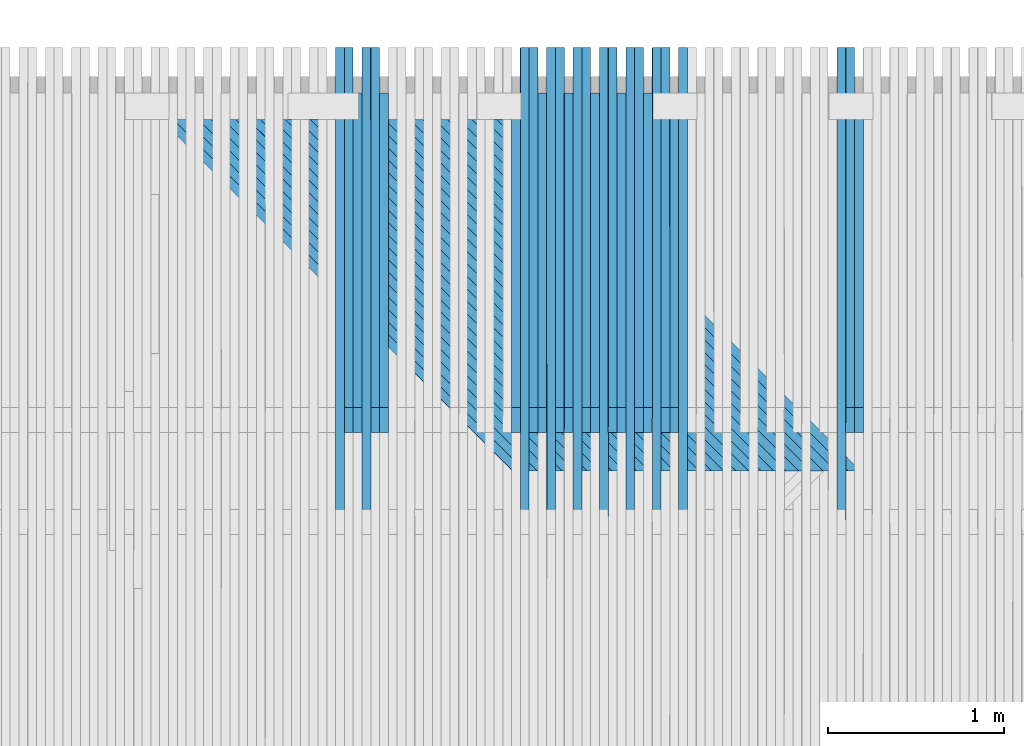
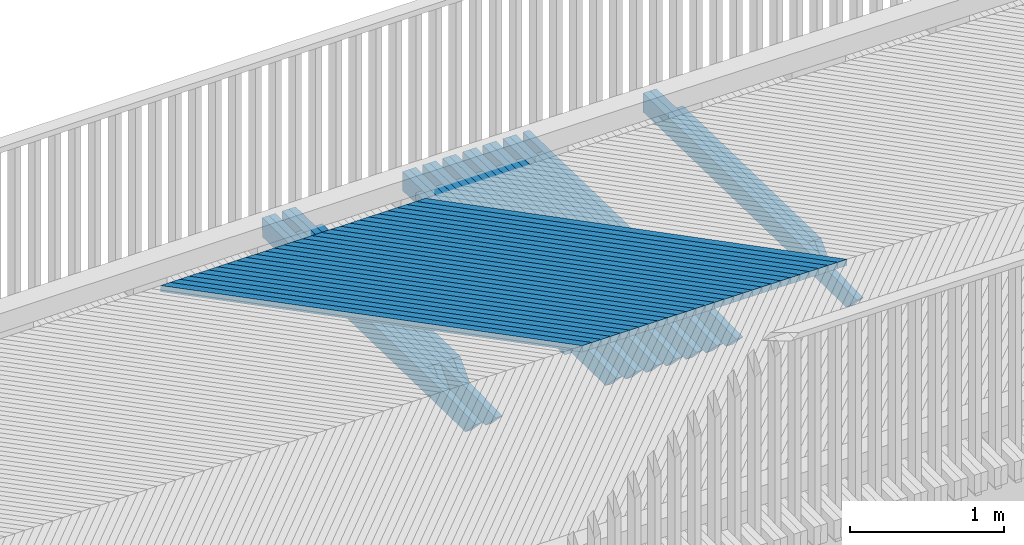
# One storey, part 33 of 47: 57 beams.
"""IFC2X3 building model written with IfcOpenShell, lengths in millimetres."""

from ifc_helpers import new_model, si_unit, frame, origin_with_axes, place, context, subcontext, project, spatial, faceted_brep, material, type_object, element, save


model = new_model("IFC2X3")

# Units and contexts
model_context = context("Model", 3, precision=1e-05, world=origin_with_axes())
body_context = subcontext(model_context, "Body", "Model", "MODEL_VIEW")
ifc_project = project(units=[si_unit("LENGTHUNIT", "METRE", prefix="MILLI"), si_unit("AREAUNIT", "SQUARE_METRE"), si_unit("VOLUMEUNIT", "CUBIC_METRE"), si_unit("MASSUNIT", "GRAM", prefix="KILO"), si_unit("TIMEUNIT", "SECOND"), si_unit("PLANEANGLEUNIT", "RADIAN"), si_unit("SOLIDANGLEUNIT", "STERADIAN"), si_unit("THERMODYNAMICTEMPERATUREUNIT", "DEGREE_CELSIUS"), si_unit("LUMINOUSINTENSITYUNIT", "LUMEN")], contexts=[model_context])

# Site, building, storey
site_placement = place(None, origin_with_axes())
site = spatial("IfcSite", under=ifc_project, at=site_placement, Name="Undefined", CompositionType="ELEMENT")
building_placement = place(site_placement, origin_with_axes())
building = spatial("IfcBuilding", under=site, at=building_placement, Name="Undefined", CompositionType="ELEMENT")
storey_placement = place(building_placement, origin_with_axes())
storey = spatial("IfcBuildingStorey", under=building, at=storey_placement, Name="Undefined", CompositionType="ELEMENT", Elevation=0.0)

# Beams
ifc_material = material(Name="TIMBER/Timber_Undefined")
beam_type_1 = type_object("IfcBeamType", Name="150*50", PredefinedType="NOTDEFINED")
beam_1_placement = place(storey_placement, frame((12050.5466206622, 64513.4953923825, 3079.51987287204), z_axis=(0.00672964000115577, 0.019996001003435, 0.99977741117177), x_axis=(0.000134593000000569, -0.999800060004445, 0.0199955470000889)))
element("IfcBeam", 1, at=beam_1_placement, inside=storey, type_object=beam_type_1, material=ifc_material, Name="BEAM", ObjectType="150*50", context=body_context, shape_type="Brep", body=[
    faceted_brep([(6.18456397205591e-09, -24.9999999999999, -75.0000000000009), (-6.1918399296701e-09, -24.9999999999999, 74.9999999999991), (-6.19911588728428e-09, 25.0, 75.0), (6.18456397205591e-09, 24.9999999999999, -75.0), (1789.96936586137, 25.0, 75.0000000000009), (1928.42646506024, 25.0, -75.0), (1928.4264649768, -24.9999999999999, -75.0), (1789.96936577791, -24.9999999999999, 75.0)], [[[0, 1, 2, 3]], [[3, 2, 4, 5]], [[0, 3, 5, 6]], [[1, 0, 6, 7]], [[2, 1, 7, 4]], [[7, 6, 5, 4]]]),
])
beam_2_placement = place(storey_placement, frame((12000.6084831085, 64771.4438078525, 3074.69475377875), z_axis=(0.00664728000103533, 0.0199960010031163, 0.999777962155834), x_axis=(0.000132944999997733, -0.999800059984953, 0.0199955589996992)))
element("IfcBeam", 2, at=beam_2_placement, inside=storey, type_object=beam_type_1, material=ifc_material, Name="BEAM", ObjectType="150*50", context=body_context, shape_type="Brep", body=[
    faceted_brep([(6.18456397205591e-09, -24.9999999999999, -75.0000000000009), (-6.1918399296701e-09, -24.9999999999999, 74.9999999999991), (-6.19911588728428e-09, 25.0, 75.0), (6.18456397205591e-09, 24.9999999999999, -75.0), (2047.96935975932, 25.0, 75.0), (2186.42645864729, 25.0, -75.0), (2186.42645915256, -25.0000000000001, -75.0), (2047.96936034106, -25.0000000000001, 75.0)], [[[0, 1, 2, 3]], [[3, 2, 4, 5]], [[0, 3, 5, 6]], [[1, 0, 6, 7]], [[2, 1, 7, 4]], [[7, 6, 5, 4]]]),
])
beam_3_placement = place(storey_placement, frame((11950.5701570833, 64771.443807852, 3075.0265631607), z_axis=(0.00648046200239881, 0.0199960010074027, 0.999779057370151), x_axis=(0.000129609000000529, -0.999800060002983, 0.0199955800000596)))
element("IfcBeam", 3, at=beam_3_placement, inside=storey, type_object=beam_type_1, material=ifc_material, Name="BEAM", ObjectType="150*50", context=body_context, shape_type="Brep", body=[
    faceted_brep([(6.18456397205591e-09, -24.9999999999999, -75.0000000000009), (6.18456397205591e-09, 24.9999999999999, -75.0), (2633.00494983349, 25.0000000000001, -75.0000000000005), (2633.00495050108, -24.9999999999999, -75.0000000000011), (-6.1918399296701e-09, -24.9999999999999, 74.9999999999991), (-6.19911588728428e-09, 25.0, 75.0), (2408.42501428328, 25.0000000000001, 74.9999999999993), (2768.5924870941, 25.0, 60.5875375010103), (2768.59248707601, -25.0, 60.5875366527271), (2408.4250638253, -25.0, 74.9999999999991)], [[[0, 1, 2, 3]], [[0, 4, 5, 1]], [[2, 1, 5, 6, 7]], [[3, 2, 7, 8]], [[4, 0, 3, 8, 9]], [[5, 4, 9, 6]], [[8, 7, 6, 9]]]),
])
beam_4_placement = place(storey_placement, frame((11050.4128725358, 64771.443807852, 3080.26119250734), z_axis=(0.00498538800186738, 0.0199960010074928, 0.999787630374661), x_axis=(9.97080000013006e-05, -0.999800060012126, 0.0199957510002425)))
element("IfcBeam", 4, at=beam_4_placement, inside=storey, type_object=beam_type_1, material=ifc_material, Name="BEAM", ObjectType="150*50", context=body_context, shape_type="Brep", body=[
    faceted_brep([(6.18456397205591e-09, -24.9999999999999, -75.0000000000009), (6.18456397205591e-09, 24.9999999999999, -75.0), (2633.00494983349, 25.0000000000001, -75.0000000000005), (2633.00495050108, -24.9999999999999, -75.0000000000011), (-6.1918399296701e-09, -24.9999999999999, 74.9999999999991), (-6.19911588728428e-09, 25.0, 75.0), (2408.42506497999, 24.9999999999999, 75.0), (2768.5924870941, 25.0, 60.5875375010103), (2768.59248707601, -25.0, 60.5875366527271), (2408.4250638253, -25.0, 74.9999999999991)], [[[0, 1, 2, 3]], [[0, 4, 5, 1]], [[2, 1, 5, 6, 7]], [[3, 2, 7, 8]], [[4, 0, 3, 8, 9]], [[5, 4, 9, 6]], [[8, 7, 6, 9]]]),
])
beam_5_placement = place(storey_placement, frame((11000.3544131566, 64513.4953923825, 3085.67048511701), z_axis=(0.00498538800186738, 0.0199960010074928, 0.999787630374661), x_axis=(9.97080000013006e-05, -0.999800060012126, 0.0199957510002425)))
element("IfcBeam", 5, at=beam_5_placement, inside=storey, type_object=beam_type_1, material=ifc_material, Name="BEAM", ObjectType="150*50", context=body_context, shape_type="Brep", body=[
    faceted_brep([(6.18456397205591e-09, -24.9999999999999, -75.0000000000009), (-6.1918399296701e-09, -24.9999999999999, 74.9999999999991), (-6.19911588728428e-09, 25.0, 75.0), (6.18456397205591e-09, 24.9999999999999, -75.0), (1789.96936586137, 25.0, 75.0000000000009), (1928.42646506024, 25.0, -75.0), (1928.4264649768, -24.9999999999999, -75.0), (1789.96936577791, -24.9999999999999, 75.0)], [[[0, 1, 2, 3]], [[3, 2, 4, 5]], [[0, 3, 5, 6]], [[1, 0, 6, 7]], [[2, 1, 7, 4]], [[7, 6, 5, 4]]]),
])
beam_6_placement = place(storey_placement, frame((10950.4247696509, 64771.4438078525, 3080.75824978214), z_axis=(0.00490302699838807, 0.0199960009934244, 0.999788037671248), x_axis=(9.80599999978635e-05, -0.999800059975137, 0.0199957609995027)))
element("IfcBeam", 6, at=beam_6_placement, inside=storey, type_object=beam_type_1, material=ifc_material, Name="BEAM", ObjectType="150*50", context=body_context, shape_type="Brep", body=[
    faceted_brep([(6.18456397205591e-09, -24.9999999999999, -75.0000000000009), (-6.1918399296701e-09, -24.9999999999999, 74.9999999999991), (-6.19911588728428e-09, 25.0, 75.0), (6.18456397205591e-09, 24.9999999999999, -75.0), (2047.96935975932, 25.0, 75.0), (2186.42645864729, 25.0, -75.0), (2186.42645915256, -25.0000000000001, -75.0), (2047.96936034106, -25.0000000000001, 75.0)], [[[0, 1, 2, 3]], [[3, 2, 4, 5]], [[0, 3, 5, 6]], [[1, 0, 6, 7]], [[2, 1, 7, 4]], [[7, 6, 5, 4]]]),
])
beam_7_placement = place(storey_placement, frame((10900.3859408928, 64771.443807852, 3081.00276028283), z_axis=(0.00473620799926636, 0.019996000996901, 0.999788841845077), x_axis=(9.47239999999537e-05, -0.99980005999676, 0.0199957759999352)))
element("IfcBeam", 7, at=beam_7_placement, inside=storey, type_object=beam_type_1, material=ifc_material, Name="BEAM", ObjectType="150*50", context=body_context, shape_type="Brep", body=[
    faceted_brep([(6.18456397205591e-09, -24.9999999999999, -75.0000000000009), (6.18456397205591e-09, 24.9999999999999, -75.0), (2633.00494983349, 25.0000000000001, -75.0000000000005), (2633.00495050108, -24.9999999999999, -75.0000000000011), (-6.1918399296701e-09, -24.9999999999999, 74.9999999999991), (-6.19911588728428e-09, 25.0, 75.0), (2408.42501428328, 25.0000000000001, 74.9999999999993), (2768.5924870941, 25.0, 60.5875375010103), (2768.59248707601, -25.0, 60.5875366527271), (2408.42499905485, -25.0, 74.9999999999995)], [[[0, 1, 2, 3]], [[0, 4, 5, 1]], [[2, 1, 5, 6, 7]], [[3, 2, 7, 8]], [[4, 0, 3, 8, 9]], [[5, 4, 9, 6]], [[6, 9, 8, 7]]]),
])
beam_8_placement = place(storey_placement, frame((10850.326134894, 64513.4953923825, 3086.39957650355), z_axis=(0.00473620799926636, 0.019996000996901, 0.999788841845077), x_axis=(9.47239999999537e-05, -0.99980005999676, 0.0199957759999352)))
element("IfcBeam", 8, at=beam_8_placement, inside=storey, type_object=beam_type_1, material=ifc_material, Name="BEAM", ObjectType="150*50", context=body_context, shape_type="Brep", body=[
    faceted_brep([(6.18456397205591e-09, -24.9999999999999, -75.0000000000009), (-6.1918399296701e-09, -24.9999999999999, 74.9999999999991), (-6.19911588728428e-09, 25.0, 75.0), (6.18456397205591e-09, 24.9999999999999, -75.0), (1789.96936586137, 25.0, 75.0000000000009), (1928.42646506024, 25.0, -75.0), (1928.4264649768, -24.9999999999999, -75.0), (1789.96936577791, -24.9999999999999, 75.0)], [[[0, 1, 2, 3]], [[3, 2, 4, 5]], [[0, 3, 5, 6]], [[1, 0, 6, 7]], [[2, 1, 7, 4]], [[7, 6, 5, 4]]]),
])
beam_9_placement = place(storey_placement, frame((10800.3977172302, 64771.4438078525, 3081.47489720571), z_axis=(0.00465384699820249, 0.019996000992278, 0.999789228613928), x_axis=(9.30769999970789e-05, -0.999800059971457, 0.0199957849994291)))
element("IfcBeam", 9, at=beam_9_placement, inside=storey, type_object=beam_type_1, material=ifc_material, Name="BEAM", ObjectType="150*50", context=body_context, shape_type="Brep", body=[
    faceted_brep([(6.18456397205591e-09, -24.9999999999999, -75.0000000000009), (-6.1918399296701e-09, -24.9999999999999, 74.9999999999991), (-6.19911588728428e-09, 25.0, 75.0), (6.18456397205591e-09, 24.9999999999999, -75.0), (2047.96935975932, 25.0, 75.0), (2186.42645864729, 25.0, -75.0), (2186.42645915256, -25.0000000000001, -75.0), (2047.96936034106, -25.0000000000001, 75.0)], [[[0, 1, 2, 3]], [[3, 2, 4, 5]], [[0, 3, 5, 6]], [[1, 0, 6, 7]], [[2, 1, 7, 4]], [[7, 6, 5, 4]]]),
])
beam_10_placement = place(storey_placement, frame((10750.3588290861, 64771.443807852, 3081.7069363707), z_axis=(0.00448702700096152, 0.019996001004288, 0.99978999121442), x_axis=(8.97409999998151e-05, -0.999800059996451, 0.019995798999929)))
element("IfcBeam", 10, at=beam_10_placement, inside=storey, type_object=beam_type_1, material=ifc_material, Name="BEAM", ObjectType="150*50", context=body_context, shape_type="Brep", body=[
    faceted_brep([(6.18456397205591e-09, -24.9999999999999, -75.0000000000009), (6.18456397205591e-09, 24.9999999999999, -75.0), (2633.00494983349, 25.0000000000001, -75.0000000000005), (2633.00495050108, -24.9999999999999, -75.0000000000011), (-6.1918399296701e-09, -24.9999999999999, 74.9999999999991), (-6.19911588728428e-09, 25.0, 75.0), (2408.42501428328, 25.0000000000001, 74.9999999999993), (2768.5924870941, 25.0, 60.5875375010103), (2768.59248707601, -25.0, 60.5875366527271), (2408.42499905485, -25.0, 74.9999999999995)], [[[0, 1, 2, 3]], [[0, 4, 5, 1]], [[2, 1, 5, 6, 7]], [[3, 2, 7, 8]], [[4, 0, 3, 8, 9]], [[5, 4, 9, 6]], [[6, 9, 8, 7]]]),
])
beam_11_placement = place(storey_placement, frame((10700.2976795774, 64513.4953923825, 3087.09127586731), z_axis=(0.00448702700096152, 0.019996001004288, 0.99978999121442), x_axis=(8.97409999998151e-05, -0.999800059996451, 0.019995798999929)))
element("IfcBeam", 11, at=beam_11_placement, inside=storey, type_object=beam_type_1, material=ifc_material, Name="BEAM", ObjectType="150*50", context=body_context, shape_type="Brep", body=[
    faceted_brep([(6.18456397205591e-09, -24.9999999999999, -75.0000000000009), (-6.1918399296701e-09, -24.9999999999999, 74.9999999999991), (-6.19911588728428e-09, 25.0, 75.0), (6.18456397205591e-09, 24.9999999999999, -75.0), (1789.96936586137, 25.0, 75.0000000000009), (1928.42646506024, 25.0, -75.0), (1928.4264649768, -24.9999999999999, -75.0), (1789.96936577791, -24.9999999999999, 75.0)], [[[0, 1, 2, 3]], [[3, 2, 4, 5]], [[0, 3, 5, 6]], [[1, 0, 6, 7]], [[2, 1, 7, 4]], [[7, 6, 5, 4]]]),
])
beam_12_placement = place(storey_placement, frame((10650.3704908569, 64771.4438078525, 3082.15415291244), z_axis=(0.00440466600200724, 0.0199960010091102, 0.999790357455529), x_axis=(8.80929999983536e-05, -0.999800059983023, 0.0199958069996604)))
element("IfcBeam", 12, at=beam_12_placement, inside=storey, type_object=beam_type_1, material=ifc_material, Name="BEAM", ObjectType="150*50", context=body_context, shape_type="Brep", body=[
    faceted_brep([(6.18456397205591e-09, -24.9999999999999, -75.0000000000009), (-6.1918399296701e-09, -24.9999999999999, 74.9999999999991), (-6.19911588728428e-09, 25.0, 75.0), (6.18456397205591e-09, 24.9999999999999, -75.0), (2047.96935975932, 25.0, 75.0), (2186.42645864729, 25.0, -75.0), (2186.42645915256, -25.0000000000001, -75.0), (2047.96936034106, -25.0000000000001, 75.0)], [[[0, 1, 2, 3]], [[3, 2, 4, 5]], [[0, 3, 5, 6]], [[1, 0, 6, 7]], [[2, 1, 7, 4]], [[7, 6, 5, 4]]]),
])
beam_13_placement = place(storey_placement, frame((10600.3315464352, 64771.443807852, 3082.37372072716), z_axis=(0.00423784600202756, 0.0199960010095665, 0.999791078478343), x_axis=(8.47570000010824e-05, -0.999800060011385, 0.0199958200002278)))
element("IfcBeam", 13, at=beam_13_placement, inside=storey, type_object=beam_type_1, material=ifc_material, Name="BEAM", ObjectType="150*50", context=body_context, shape_type="Brep", body=[
    faceted_brep([(6.18456397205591e-09, -24.9999999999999, -75.0000000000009), (6.18456397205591e-09, 24.9999999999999, -75.0), (2633.00494983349, 25.0000000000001, -75.0000000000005), (2633.00495050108, -24.9999999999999, -75.0000000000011), (-6.1918399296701e-09, -24.9999999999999, 74.9999999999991), (-6.19911588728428e-09, 25.0, 75.0), (2408.42506497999, 24.9999999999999, 75.0), (2768.5924870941, 25.0, 60.5875375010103), (2768.59248707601, -25.0, 60.5875366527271), (2408.4250638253, -25.0, 74.9999999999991)], [[[0, 1, 2, 3]], [[0, 4, 5, 1]], [[2, 1, 5, 6, 7]], [[3, 2, 7, 8]], [[4, 0, 3, 8, 9]], [[5, 4, 9, 6]], [[8, 7, 6, 9]]]),
])
beam_14_placement = place(storey_placement, frame((10550.2690565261, 64513.4953923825, 3087.74558316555), z_axis=(0.00423784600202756, 0.0199960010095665, 0.999791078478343), x_axis=(8.47570000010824e-05, -0.999800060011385, 0.0199958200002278)))
element("IfcBeam", 14, at=beam_14_placement, inside=storey, type_object=beam_type_1, material=ifc_material, Name="BEAM", ObjectType="150*50", context=body_context, shape_type="Brep", body=[
    faceted_brep([(6.18456397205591e-09, -24.9999999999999, -75.0000000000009), (-6.1918399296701e-09, -24.9999999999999, 74.9999999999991), (-6.19911588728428e-09, 25.0, 75.0), (6.18456397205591e-09, 24.9999999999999, -75.0), (1789.96936586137, 25.0, 75.0000000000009), (1928.42646506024, 25.0, -75.0), (1928.4264649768, -24.9999999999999, -75.0), (1789.96936577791, -24.9999999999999, 75.0)], [[[0, 1, 2, 3]], [[3, 2, 4, 5]], [[0, 3, 5, 6]], [[1, 0, 6, 7]], [[2, 1, 7, 4]], [[7, 6, 5, 4]]]),
])
beam_15_placement = place(storey_placement, frame((10500.3430998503, 64771.4438078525, 3082.79601686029), z_axis=(0.00415548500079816, 0.0199960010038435, 0.999791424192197), x_axis=(8.31089999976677e-05, -0.999800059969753, 0.019995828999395)))
element("IfcBeam", 15, at=beam_15_placement, inside=storey, type_object=beam_type_1, material=ifc_material, Name="BEAM", ObjectType="150*50", context=body_context, shape_type="Brep", body=[
    faceted_brep([(6.18456397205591e-09, -24.9999999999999, -75.0000000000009), (-6.1918399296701e-09, -24.9999999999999, 74.9999999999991), (-6.19911588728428e-09, 25.0, 75.0), (6.18456397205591e-09, 24.9999999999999, -75.0), (2047.96935975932, 25.0, 75.0), (2186.42645864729, 25.0, -75.0), (2186.42645915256, -25.0000000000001, -75.0), (2047.96936034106, -25.0000000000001, 75.0)], [[[0, 1, 2, 3]], [[3, 2, 4, 5]], [[0, 3, 5, 6]], [[1, 0, 6, 7]], [[2, 1, 7, 4]], [[7, 6, 5, 4]]]),
])
beam_16_placement = place(storey_placement, frame((10450.3041022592, 64771.443807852, 3083.00311331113), z_axis=(0.00398866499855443, 0.0199960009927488, 0.999792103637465), x_axis=(7.97730000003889e-05, -0.999800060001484, 0.0199958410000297)))
element("IfcBeam", 16, at=beam_16_placement, inside=storey, type_object=beam_type_1, material=ifc_material, Name="BEAM", ObjectType="150*50", context=body_context, shape_type="Brep", body=[
    faceted_brep([(6.18456397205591e-09, -24.9999999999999, -75.0000000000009), (6.18456397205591e-09, 24.9999999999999, -75.0), (2633.00494983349, 25.0000000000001, -75.0000000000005), (2633.00495050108, -24.9999999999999, -75.0000000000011), (-6.1918399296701e-09, -24.9999999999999, 74.9999999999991), (-6.19911588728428e-09, 25.0, 75.0), (2408.42501428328, 25.0000000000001, 74.9999999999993), (2768.5924870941, 25.0, 60.5875375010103), (2768.59248707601, -25.0, 60.5875366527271), (2408.4250638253, -25.0, 74.9999999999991)], [[[0, 1, 2, 3]], [[0, 4, 5, 1]], [[2, 1, 5, 6, 7]], [[3, 2, 7, 8]], [[4, 0, 3, 8, 9]], [[5, 4, 9, 6]], [[8, 7, 6, 9]]]),
])
beam_17_placement = place(storey_placement, frame((10400.2402750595, 64513.4953923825, 3088.36249835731), z_axis=(0.00398866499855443, 0.0199960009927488, 0.999792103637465), x_axis=(7.97730000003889e-05, -0.999800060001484, 0.0199958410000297)))
element("IfcBeam", 17, at=beam_17_placement, inside=storey, type_object=beam_type_1, material=ifc_material, Name="BEAM", ObjectType="150*50", context=body_context, shape_type="Brep", body=[
    faceted_brep([(6.18456397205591e-09, -24.9999999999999, -75.0000000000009), (-6.1918399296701e-09, -24.9999999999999, 74.9999999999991), (-6.19911588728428e-09, 25.0, 75.0), (6.18456397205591e-09, 24.9999999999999, -75.0), (1789.96936586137, 25.0, 75.0000000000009), (1928.42646506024, 25.0, -75.0), (1928.4264649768, -24.9999999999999, -75.0), (1789.96936577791, -24.9999999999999, 75.0)], [[[0, 1, 2, 3]], [[3, 2, 4, 5]], [[0, 3, 5, 6]], [[1, 0, 6, 7]], [[2, 1, 7, 4]], [[7, 6, 5, 4]]]),
])
beam_18_placement = place(storey_placement, frame((10350.3155535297, 64771.4438078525, 3083.4004890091), z_axis=(0.00390630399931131, 0.0199960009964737, 0.99979242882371), x_axis=(7.81259999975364e-05, -0.999800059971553, 0.0199958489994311)))
element("IfcBeam", 18, at=beam_18_placement, inside=storey, type_object=beam_type_1, material=ifc_material, Name="BEAM", ObjectType="150*50", context=body_context, shape_type="Brep", body=[
    faceted_brep([(6.18456397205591e-09, -24.9999999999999, -75.0000000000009), (-6.1918399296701e-09, -24.9999999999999, 74.9999999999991), (-6.19911588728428e-09, 25.0, 75.0), (6.18456397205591e-09, 24.9999999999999, -75.0), (2047.96935975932, 25.0, 75.0), (2186.42645864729, 25.0, -75.0), (2186.42645915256, -25.0000000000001, -75.0), (2047.96936034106, -25.0000000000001, 75.0)], [[[0, 1, 2, 3]], [[3, 2, 4, 5]], [[0, 3, 5, 6]], [[1, 0, 6, 7]], [[2, 1, 7, 4]], [[7, 6, 5, 4]]]),
])
beam_19_placement = place(storey_placement, frame((10300.2765058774, 64771.443807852, 3083.59511408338), z_axis=(0.00373948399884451, 0.0199960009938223, 0.999793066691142), x_axis=(7.47900000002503e-05, -0.999800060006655, 0.0199958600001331)))
element("IfcBeam", 19, at=beam_19_placement, inside=storey, type_object=beam_type_1, material=ifc_material, Name="BEAM", ObjectType="150*50", context=body_context, shape_type="Brep", body=[
    faceted_brep([(6.18456397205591e-09, -24.9999999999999, -75.0000000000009), (6.18456397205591e-09, 24.9999999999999, -75.0), (2633.00494983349, 25.0000000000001, -75.0000000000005), (2633.00495050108, -24.9999999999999, -75.0000000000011), (-6.1918399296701e-09, -24.9999999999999, 74.9999999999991), (-6.19911588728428e-09, 25.0, 75.0), (2408.42506497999, 24.9999999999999, 75.0), (2768.5924870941, 25.0, 60.5875375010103), (2768.59248707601, -25.0, 60.5875366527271), (2408.4250638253, -25.0, 74.9999999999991)], [[[0, 1, 2, 3]], [[0, 4, 5, 1]], [[2, 1, 5, 6, 7]], [[3, 2, 7, 8]], [[4, 0, 3, 8, 9]], [[5, 4, 9, 6]], [[8, 7, 6, 9]]]),
])
beam_20_placement = place(storey_placement, frame((10250.2113444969, 64513.4953923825, 3088.94202140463), z_axis=(0.00373948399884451, 0.0199960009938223, 0.999793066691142), x_axis=(7.47900000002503e-05, -0.999800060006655, 0.0199958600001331)))
element("IfcBeam", 20, at=beam_20_placement, inside=storey, type_object=beam_type_1, material=ifc_material, Name="BEAM", ObjectType="150*50", context=body_context, shape_type="Brep", body=[
    faceted_brep([(6.18456397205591e-09, -24.9999999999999, -75.0000000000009), (-6.1918399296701e-09, -24.9999999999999, 74.9999999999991), (-6.19911588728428e-09, 25.0, 75.0), (6.18456397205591e-09, 24.9999999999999, -75.0), (1789.96936586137, 25.0, 75.0000000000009), (1928.42646506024, 25.0, -75.0), (1928.4264649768, -24.9999999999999, -75.0), (1789.96936577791, -24.9999999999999, 75.0)], [[[0, 1, 2, 3]], [[3, 2, 4, 5]], [[0, 3, 5, 6]], [[1, 0, 6, 7]], [[2, 1, 7, 4]], [[7, 6, 5, 4]]]),
])
beam_21_placement = place(storey_placement, frame((10200.2878612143, 64771.4438078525, 3083.96756932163), z_axis=(0.00365712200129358, 0.0199960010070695, 0.999793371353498), x_axis=(7.3141999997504e-05, -0.999800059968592, 0.0199958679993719)))
element("IfcBeam", 21, at=beam_21_placement, inside=storey, type_object=beam_type_1, material=ifc_material, Name="BEAM", ObjectType="150*50", context=body_context, shape_type="Brep", body=[
    faceted_brep([(6.18456397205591e-09, -24.9999999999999, -75.0000000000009), (-6.1918399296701e-09, -24.9999999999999, 74.9999999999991), (-6.19911588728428e-09, 25.0, 75.0), (6.18456397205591e-09, 24.9999999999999, -75.0), (2047.96935975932, 25.0, 75.0), (2186.42645864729, 25.0, -75.0), (2186.42645915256, -25.0000000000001, -75.0), (2047.96936034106, -25.0000000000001, 75.0)], [[[0, 1, 2, 3]], [[3, 2, 4, 5]], [[0, 3, 5, 6]], [[1, 0, 6, 7]], [[2, 1, 7, 4]], [[7, 6, 5, 4]]]),
])
beam_22_placement = place(storey_placement, frame((10150.2487666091, 64771.443807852, 3084.14972300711), z_axis=(0.00349030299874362, 0.0199960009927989, 0.99979396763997), x_axis=(6.98060000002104e-05, -0.999800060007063, 0.0199958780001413)))
element("IfcBeam", 22, at=beam_22_placement, inside=storey, type_object=beam_type_1, material=ifc_material, Name="BEAM", ObjectType="150*50", context=body_context, shape_type="Brep", body=[
    faceted_brep([(6.18456397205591e-09, -24.9999999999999, -75.0000000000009), (6.18456397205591e-09, 24.9999999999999, -75.0), (2633.00494983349, 25.0000000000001, -75.0000000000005), (2633.00495050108, -24.9999999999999, -75.0000000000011), (-6.1918399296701e-09, -24.9999999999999, 74.9999999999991), (-6.19911588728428e-09, 25.0, 75.0), (2408.42506497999, 24.9999999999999, 75.0), (2768.5924870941, 25.0, 60.5875375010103), (2768.59248707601, -25.0, 60.5875366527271), (2408.4250638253, -25.0, 74.9999999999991)], [[[0, 1, 2, 3]], [[0, 4, 5, 1]], [[2, 1, 5, 6, 7]], [[3, 2, 7, 8]], [[4, 0, 3, 8, 9]], [[5, 4, 9, 6]], [[8, 7, 6, 9]]]),
])
for number, where, z_axis, x_axis, name in (
    (23, (10100.1822741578, 64513.4953923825, 3089.48415227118), (0.00349030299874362, 0.0199960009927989, 0.99979396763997), (6.98060000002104e-05, -0.999800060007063, 0.0199958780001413), "BEAM"),
    (24, (9350.03515199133, 64513.4953923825, 3091.63392279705), (0.00224439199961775, 0.0199960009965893, 0.99979754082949), (4.48879999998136e-05, -0.999800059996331, 0.0199959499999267), "BEAM"),
):
    element("IfcBeam", number, at=place(storey_placement, frame(where, z_axis=z_axis, x_axis=x_axis)), inside=storey, type_object=beam_type_1, material=ifc_material, Name=name, ObjectType="150*50", context=body_context, shape_type="Brep", body=[
        faceted_brep([(6.18456397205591e-09, -24.9999999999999, -75.0000000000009), (-6.1918399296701e-09, -24.9999999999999, 74.9999999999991), (-6.19911588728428e-09, 25.0, 75.0), (6.18456397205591e-09, 24.9999999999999, -75.0), (1789.96936586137, 25.0, 75.0000000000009), (1928.42646506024, 25.0, -75.0), (1928.4264649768, -24.9999999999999, -75.0), (1789.96936577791, -24.9999999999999, 75.0)], [[[0, 1, 2, 3]], [[3, 2, 4, 5]], [[0, 3, 5, 6]], [[1, 0, 6, 7]], [[2, 1, 7, 4]], [[7, 6, 5, 4]]]),
    ])
beam_23_placement = place(storey_placement, frame((9300.11916331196, 64771.4438078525, 3086.58482082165), z_axis=(0.00216203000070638, 0.0199960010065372, 0.999797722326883), x_axis=(4.32399999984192e-05, -0.999800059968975, 0.0199959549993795)))
element("IfcBeam", 25, at=beam_23_placement, inside=storey, type_object=beam_type_1, material=ifc_material, Name="BEAM", ObjectType="150*50", context=body_context, shape_type="Brep", body=[
    faceted_brep([(6.18456397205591e-09, -24.9999999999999, -75.0000000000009), (-6.1918399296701e-09, -24.9999999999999, 74.9999999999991), (-6.19911588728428e-09, 25.0, 75.0), (6.18456397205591e-09, 24.9999999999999, -75.0), (2047.96935975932, 25.0, 75.0), (2186.42645864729, 25.0, -75.0), (2186.42645915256, -25.0000000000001, -75.0), (2047.96936034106, -25.0000000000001, 75.0)], [[[0, 1, 2, 3]], [[3, 2, 4, 5]], [[0, 3, 5, 6]], [[1, 0, 6, 7]], [[2, 1, 7, 4]], [[7, 6, 5, 4]]]),
])
beam_24_placement = place(storey_placement, frame((9250.07985226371, 64771.443807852, 3086.69214596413), z_axis=(0.0019952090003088, 0.0199960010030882, 0.999798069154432), x_axis=(3.99040000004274e-05, -0.999800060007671, 0.0199959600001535)))
element("IfcBeam", 26, at=beam_24_placement, inside=storey, type_object=beam_type_1, material=ifc_material, Name="BEAM", ObjectType="150*50", context=body_context, shape_type="Brep", body=[
    faceted_brep([(6.18456397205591e-09, -24.9999999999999, -75.0000000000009), (6.18456397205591e-09, 24.9999999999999, -75.0), (2633.00494983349, 25.0000000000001, -75.0000000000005), (2633.00495050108, -24.9999999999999, -75.0000000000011), (-6.1918399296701e-09, -24.9999999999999, 74.9999999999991), (-6.19911588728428e-09, 25.0, 75.0), (2408.42506497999, 24.9999999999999, 75.0), (2768.5924870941, 25.0, 60.5875375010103), (2768.59248707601, -25.0, 60.5875366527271), (2408.4250638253, -25.0, 74.9999999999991)], [[[0, 1, 2, 3]], [[0, 4, 5, 1]], [[2, 1, 5, 6, 7]], [[3, 2, 7, 8]], [[4, 0, 3, 8, 9]], [[5, 4, 9, 6]], [[8, 7, 6, 9]]]),
])
beam_25_placement = place(storey_placement, frame((9200.00543869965, 64513.4953923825, 3091.95169995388), z_axis=(0.0019952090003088, 0.0199960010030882, 0.999798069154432), x_axis=(3.99040000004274e-05, -0.999800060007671, 0.0199959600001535)))
element("IfcBeam", 27, at=beam_25_placement, inside=storey, type_object=beam_type_1, material=ifc_material, Name="BEAM", ObjectType="150*50", context=body_context, shape_type="Brep", body=[
    faceted_brep([(6.18456397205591e-09, -24.9999999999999, -75.0000000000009), (-6.1918399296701e-09, -24.9999999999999, 74.9999999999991), (-6.19911588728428e-09, 25.0, 75.0), (6.18456397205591e-09, 24.9999999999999, -75.0), (1789.96936586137, 25.0, 75.0000000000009), (1928.42646506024, 25.0, -75.0), (1928.4264649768, -24.9999999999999, -75.0), (1789.96936577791, -24.9999999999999, 75.0)], [[[0, 1, 2, 3]], [[3, 2, 4, 5]], [[0, 3, 5, 6]], [[1, 0, 6, 7]], [[2, 1, 7, 4]], [[7, 6, 5, 4]]]),
])
beam_26_placement = place(storey_placement, frame((9150.0907099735, 64771.4438078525, 3086.89015742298), z_axis=(0.00191284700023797, 0.0199960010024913, 0.99979823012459), x_axis=(3.82569999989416e-05, -0.999800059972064, 0.0199959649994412)))
element("IfcBeam", 28, at=beam_26_placement, inside=storey, type_object=beam_type_1, material=ifc_material, Name="BEAM", ObjectType="150*50", context=body_context, shape_type="Brep", body=[
    faceted_brep([(6.18456397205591e-09, -24.9999999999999, -75.0000000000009), (-6.1918399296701e-09, -24.9999999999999, 74.9999999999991), (-6.19911588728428e-09, 25.0, 75.0), (6.18456397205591e-09, 24.9999999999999, -75.0), (2047.96935975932, 25.0, 75.0), (2186.42645864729, 25.0, -75.0), (2186.42645915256, -25.0000000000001, -75.0), (2047.96936034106, -25.0000000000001, 75.0)], [[[0, 1, 2, 3]], [[3, 2, 4, 5]], [[0, 3, 5, 6]], [[1, 0, 6, 7]], [[2, 1, 7, 4]], [[7, 6, 5, 4]]]),
])
beam_27_placement = place(storey_placement, frame((9100.05137373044, 64771.443807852, 3086.98501111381), z_axis=(0.00174602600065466, 0.0199960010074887, 0.999798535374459), x_axis=(3.4920999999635e-05, -0.999800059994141, 0.0199959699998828)))
element("IfcBeam", 29, at=beam_27_placement, inside=storey, type_object=beam_type_1, material=ifc_material, Name="BEAM", ObjectType="150*50", context=body_context, shape_type="Brep", body=[
    faceted_brep([(6.18456397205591e-09, -24.9999999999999, -75.0000000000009), (6.18456397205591e-09, 24.9999999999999, -75.0), (2633.00494983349, 25.0000000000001, -75.0000000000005), (2633.00495050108, -24.9999999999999, -75.0000000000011), (-6.1918399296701e-09, -24.9999999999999, 74.9999999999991), (-6.19911588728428e-09, 25.0, 75.0), (2408.42501428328, 25.0000000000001, 74.9999999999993), (2768.5924870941, 25.0, 60.5875375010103), (2768.59248707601, -25.0, 60.5875366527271), (2408.42499905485, -25.0, 74.9999999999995)], [[[0, 1, 2, 3]], [[0, 4, 5, 1]], [[2, 1, 5, 6, 7]], [[3, 2, 7, 8]], [[4, 0, 3, 8, 9]], [[5, 4, 9, 6]], [[6, 9, 8, 7]]]),
])
beam_type_2 = type_object("IfcBeamType", Name="50*50", PredefinedType="NOTDEFINED")
for number, where, z_axis, x_axis, name in (
    (30, (12025.6094073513, 62365.4998996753, 3222.66462447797), (0.70701261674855, 0.706981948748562, -0.0175978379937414), (-0.707184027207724, 0.706948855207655, -0.0106802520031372), "BEAM"),
    (31, (11954.8867269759, 62365.4998996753, 3223.13332164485), (0.707014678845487, 0.706981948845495, -0.0175147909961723), (-0.707182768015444, 0.706948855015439, -0.0107633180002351), "BEAM"),
    (32, (11884.1639920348, 62365.4998996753, 3223.59371167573), (0.707016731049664, 0.706981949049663, -0.0174317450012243), (-0.707181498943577, 0.706948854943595, -0.0108463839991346), "BEAM"),
    (33, (11813.441203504, 62365.4998996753, 3224.04579456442), (0.707018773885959, 0.706981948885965, -0.0173486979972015), (-0.707180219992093, 0.706948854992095, -0.0109294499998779), "BEAM"),
    (34, (11742.718362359, 62365.4998996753, 3224.48957030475), (0.707020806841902, 0.706981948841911, -0.0172656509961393), (-0.707178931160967, 0.706948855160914, -0.0110125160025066), "BEAM"),
    (35, (11671.9954695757, 62365.4998996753, 3224.92503889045), (0.707022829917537, 0.706981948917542, -0.017182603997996), (-0.707177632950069, 0.706948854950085, -0.0110955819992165), "BEAM"),
    (36, (11601.2725261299, 62365.4998996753, 3225.35220031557), (0.707024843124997, 0.706981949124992, -0.0170995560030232), (-0.707176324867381, 0.706948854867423, -0.0111786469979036), "BEAM"),
    (37, (11530.5495329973, 62365.4998996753, 3225.7710545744), (0.707026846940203, 0.706981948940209, -0.0170165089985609), (-0.707175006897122, 0.706948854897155, -0.0112617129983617), "BEAM"),
    (38, (11459.8264911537, 62365.4998996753, 3226.18160166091), (0.7070288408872, 0.706981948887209, -0.0169334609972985), (-0.707173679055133, 0.706948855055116, -0.0113447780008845), "BEAM"),
    (39, (11389.1034015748, 62365.4998996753, 3226.58384156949), (0.70703082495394, 0.706981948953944, -0.0168504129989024), (-0.70717234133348, 0.706948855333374, -0.011427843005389), "BEAM"),
    (40, (11318.3802652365, 62365.4998996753, 3226.97777429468), (0.707032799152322, 0.706981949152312, -0.0167673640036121), (-0.707170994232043, 0.70694885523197, -0.0115109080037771), "BEAM"),
    (41, (11247.6570831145, 62365.4998996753, 3227.363399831), (0.707034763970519, 0.706981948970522, -0.0166843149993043), (-0.707169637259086, 0.706948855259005, -0.0115939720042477), "BEAM"),
    (42, (11176.9338561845, 62365.4998996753, 3227.7407181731), (0.707036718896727, 0.706981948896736, -0.0166012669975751), (-0.707168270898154, 0.706948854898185, -0.0116770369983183), "BEAM"),
    (43, (11106.2105854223, 62365.4998996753, 3228.10972931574), (0.707038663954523, 0.706981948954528, -0.0165182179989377), (-0.70716689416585, 0.706948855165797, -0.011760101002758), "BEAM"),
    (44, (11035.4872718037, 62365.4998996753, 3228.47043325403), (0.707040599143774, 0.706981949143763, -0.016435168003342), (-0.707165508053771, 0.706948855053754, -0.0118431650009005), "BEAM"),
    (45, (10964.7639163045, 62365.4998996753, 3228.82282998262), (0.707042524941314, 0.706981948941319, -0.0163521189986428), (-0.707164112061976, 0.706948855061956, -0.0119262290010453), "BEAM"),
    (46, (10894.0405199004, 62365.4998996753, 3229.16691949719), (0.707044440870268, 0.706981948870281, -0.0162690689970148), (-0.707162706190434, 0.706948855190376, -0.0120092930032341), "BEAM"),
    (47, (10823.3170835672, 62365.4998996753, 3229.50270179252), (0.70704634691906, 0.706981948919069, -0.0161860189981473), (-0.707161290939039, 0.706948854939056, -0.0120923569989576), "BEAM"),
    (48, (10752.5936082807, 62365.4998996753, 3229.83017686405), (0.70704824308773, 0.706981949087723, -0.0161029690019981), (-0.707159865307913, 0.706948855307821, -0.0121754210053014), "BEAM"),
    (49, (10681.8700950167, 62365.4998996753, 3230.14934470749), (0.707050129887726, 0.706981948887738, -0.0160199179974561), (-0.707158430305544, 0.706948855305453, -0.0122584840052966), "BEAM"),
    (50, (10611.1465447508, 62365.4998996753, 3230.46020531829), (0.707052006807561, 0.70698194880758, -0.0159368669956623), (-0.707156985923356, 0.706948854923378, -0.0123415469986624), "BEAM"),
    (51, (10540.422958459, 62365.4998996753, 3230.76275869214), (0.707053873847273, 0.70698194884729, -0.0158538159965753), (-0.707155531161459, 0.706948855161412, -0.0124246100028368), "BEAM"),
    (52, (10469.6993371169, 62365.4998996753, 3231.05700482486), (0.707055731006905, 0.706981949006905, -0.0157707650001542), (-0.707154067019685, 0.706948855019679, -0.0125076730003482), "BEAM"),
    (53, (10398.9756817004, 62365.4998996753, 3231.34294371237), (0.707057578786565, 0.706981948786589, -0.0156877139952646), (-0.707152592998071, 0.706948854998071, -0.0125907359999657), "BEAM"),
    (54, (10328.2519931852, 62365.4998996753, 3231.62057535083), (0.707059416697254, 0.706981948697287, -0.0156046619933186), (-0.707151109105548, 0.706948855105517, -0.0126737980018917), "BEAM"),
    (55, (10257.5282725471, 62365.4998996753, 3231.88989973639), (0.707061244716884, 0.706981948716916, -0.0155216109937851), (-0.707149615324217, 0.706948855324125, -0.0127568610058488), "BEAM"),
    (56, (10186.8045207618, 62365.4998996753, 3232.15091686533), (0.707063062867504, 0.70698194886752, -0.0154385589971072), (-0.707148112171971, 0.706948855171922, -0.0128399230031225), "BEAM"),
    (57, (10116.0807388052, 62365.4998996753, 3232.40362673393), (0.707064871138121, 0.706981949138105, -0.0153555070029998), (-0.707146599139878, 0.706948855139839, -0.0129229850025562), "BEAM"),
):
    element("IfcBeam", number, at=place(storey_placement, frame(where, z_axis=z_axis, x_axis=x_axis)), inside=storey, type_object=beam_type_2, material=ifc_material, Name=name, ObjectType="50*50", context=body_context, shape_type="Brep", body=[
        faceted_brep([(23.5869248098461, 25.0, -25.0), (-26.4154158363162, 25.0, 25.0), (2802.92643296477, 25.0000000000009, 25.0), (2852.92877373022, 25.0000000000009, -25.0), (-25.0011704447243, -25.0, 24.9999999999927), (2804.34067830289, -24.9999999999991, 25.0), (25.0011701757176, -25.0, -24.9999999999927), (2854.34301907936, -24.9999999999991, -25.0)], [[[0, 1, 2, 3]], [[1, 4, 5, 2]], [[4, 6, 7, 5]], [[6, 0, 3, 7]], [[5, 7, 3, 2]], [[6, 4, 1, 0]]]),
    ])

save(model, "model.ifc")
